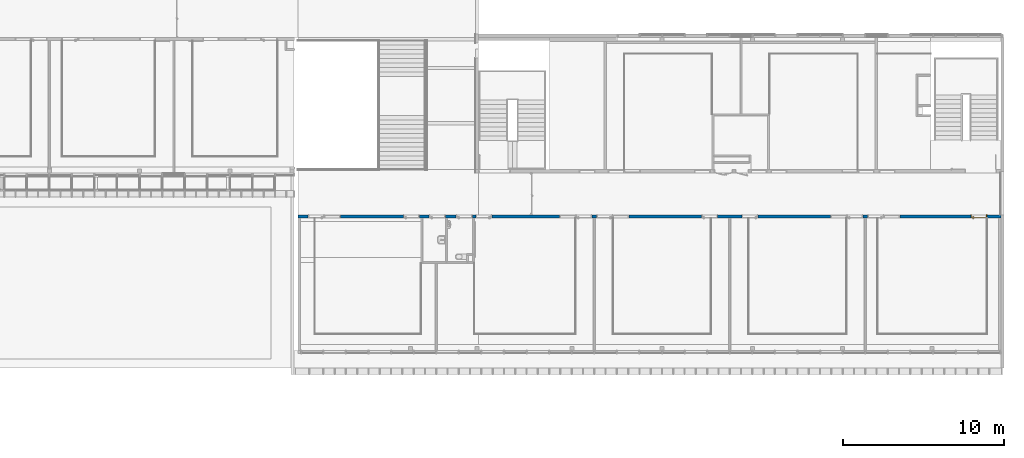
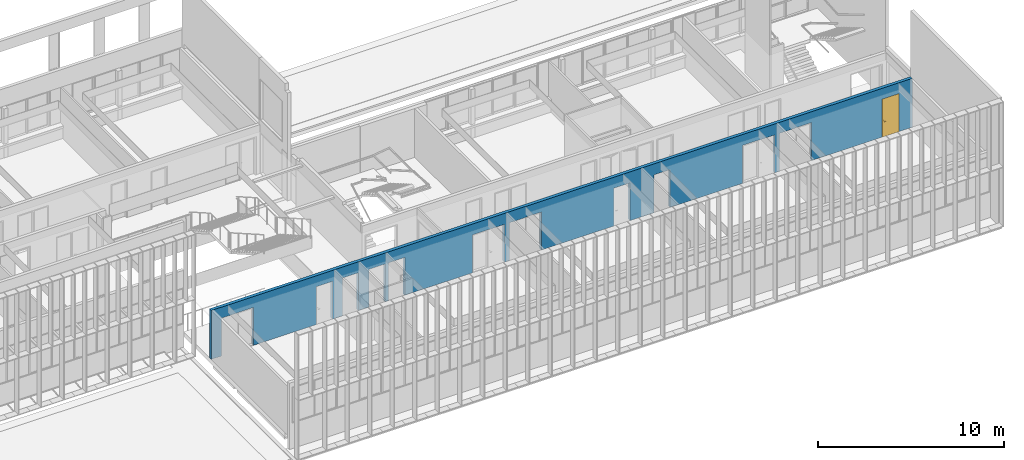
# One storey, part 66 of 106: 1 door, 1 wall, 18 openings.
"""IFC2X3 building model written with IfcOpenShell, lengths in centimetres."""

from ifc_helpers import new_model, entity, si_unit, converted_unit, derived_unit, direction, frame, frame_2d, origin, place, context, subcontext, project, spatial, polyline, rectangle, extrude, clip, bounded_halfspace, faceted_brep, source, transform, mapped, material, material_list, layer, layer_set, layer_usage, type_object, type_shapes, element, fill, save


model = new_model("IFC2X3")

# Units and contexts
model_context = context("Model", 3, precision=0.001, world=origin(), true_north=direction((6.12303176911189e-17, 1.0)))
body_context = subcontext(model_context, "Body", "Model", "MODEL_VIEW")
ifc_project = project(units=[si_unit("LENGTHUNIT", "METRE", prefix="CENTI"), si_unit("AREAUNIT", "SQUARE_METRE"), si_unit("VOLUMEUNIT", "CUBIC_METRE"), converted_unit("PLANEANGLEUNIT", "DEGREE", entity("IfcRatioMeasure", 0.0174532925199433), si_unit("PLANEANGLEUNIT", "RADIAN"), dimensions=[0, 0, 0, 0, 0, 0, 0]), si_unit("MASSUNIT", "GRAM", prefix="KILO"), derived_unit("MASSDENSITYUNIT", [(si_unit("MASSUNIT", "GRAM", prefix="KILO"), 1), (si_unit("LENGTHUNIT", "METRE"), -3)]), si_unit("TIMEUNIT", "SECOND"), si_unit("FREQUENCYUNIT", "HERTZ"), si_unit("THERMODYNAMICTEMPERATUREUNIT", "DEGREE_CELSIUS"), derived_unit("THERMALTRANSMITTANCEUNIT", [(si_unit("MASSUNIT", "GRAM", prefix="KILO"), 1), (si_unit("THERMODYNAMICTEMPERATUREUNIT", "KELVIN"), -1), (si_unit("TIMEUNIT", "SECOND"), -3)]), derived_unit("VOLUMETRICFLOWRATEUNIT", [(si_unit("LENGTHUNIT", "METRE"), 3), (si_unit("TIMEUNIT", "SECOND"), -1)]), si_unit("ELECTRICCURRENTUNIT", "AMPERE"), si_unit("ELECTRICVOLTAGEUNIT", "VOLT"), si_unit("POWERUNIT", "WATT"), si_unit("FORCEUNIT", "NEWTON", prefix="KILO"), si_unit("ILLUMINANCEUNIT", "LUX"), si_unit("LUMINOUSFLUXUNIT", "LUMEN"), si_unit("LUMINOUSINTENSITYUNIT", "CANDELA"), derived_unit("USERDEFINED", [(si_unit("MASSUNIT", "GRAM", prefix="KILO"), -1), (si_unit("LENGTHUNIT", "METRE"), -2), (si_unit("TIMEUNIT", "SECOND"), 3), (si_unit("LUMINOUSFLUXUNIT", "LUMEN"), 1)]), derived_unit("LINEARVELOCITYUNIT", [(si_unit("LENGTHUNIT", "METRE"), 1), (si_unit("TIMEUNIT", "SECOND"), -1)]), si_unit("PRESSUREUNIT", "PASCAL"), derived_unit("USERDEFINED", [(si_unit("LENGTHUNIT", "METRE"), -2), (si_unit("MASSUNIT", "GRAM", prefix="KILO"), 1), (si_unit("TIMEUNIT", "SECOND"), -2)])], contexts=[model_context])

# Site, building, storey
site_placement = place(None, frame((-2781.94577612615, 7442.24238424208, 0.0)))
site = spatial("IfcSite", under=ifc_project, at=site_placement, Name="Default", CompositionType="ELEMENT")
building_placement = place(site_placement, origin())
building = spatial("IfcBuilding", under=site, at=building_placement, CompositionType="ELEMENT")
storey_placement = place(building_placement, frame((0.0, 0.0, 422.0)))
storey = spatial("IfcBuildingStorey", under=building, at=storey_placement, Name="Toiture - Cuisine", CompositionType="ELEMENT", Elevation=421.999999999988)

# Wall, openings, door
ifc_material_1 = material(Name="01 - Maçonnerie")
ifc_layer = layer(ifc_material_1, 20.0)
ifc_layer_set = layer_set([ifc_layer], Name="Mur de base:04 - Structure - béton - 20cm")
ifc_layer_usage = layer_usage(ifc_layer_set, "AXIS2", "NEGATIVE", 10.0)
wall_type = type_object("IfcWallType", Name="Mur de base:04 - Structure - béton - 20cm", PredefinedType="STANDARD", material=ifc_layer_set)
wall_placement = place(building_placement, frame((-4767.99987760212, -2200.15656731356, 422.0)))
wall = element("IfcWallStandardCase", 1, at=wall_placement, inside=storey, type_object=wall_type, material=ifc_layer_usage, Name="Mur de base:04 - Structure - béton - 20cm", ObjectType="Mur de base:04 - Structure - béton - 20cm", context=body_context, shape_type="Clipping", body=[
    clip(extrude(rectangle(XDim=4357.99999476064, YDim=19.9999999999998, at=frame_2d((2178.99999738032, -6.30606677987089e-14), x_axis=(-1.0, 0.0))), origin(), (0.0, 0.0, 1.0), 321.0), bounded_halfspace(frame((0.0, 10.0, 321.0), z_axis=(0.0, 0.0, -1.0), x_axis=(0.0, 1.0, 0.0)), True, frame((0.0, 10.0, 321.0)), polyline([(0.0, 0.0), (0.0, -20.0), (15.2999999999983, -20.0), (103.799999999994, -20.0), (105.799999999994, -20.0), (763.799999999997, -20.0), (773.799999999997, -20.0), (915.699994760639, -20.0), (925.699994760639, -20.0), (1082.69999476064, -20.0), (1092.69999476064, -20.0), (1720.69999476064, -20.0), (1722.69999476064, -20.0), (1832.69999476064, -20.0), (1842.69999476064, -20.0), (1952.69999476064, -20.0), (1954.69999476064, -20.0), (2560.69999476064, -20.0), (2562.69999476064, -20.0), (2672.69999476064, -20.0), (2682.69999476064, -20.0), (2792.69999476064, -20.0), (2794.69999476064, -20.0), (3400.69999476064, -20.0), (3402.69999476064, -20.0), (3512.69999476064, -20.0), (3522.69999476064, -20.0), (3592.69999476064, -20.0), (3594.69999476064, -20.0), (4270.69999476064, -20.0), (4272.69999476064, -20.0), (4342.69999476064, -20.0), (4358.0, -20.0), (4358.0, 0.0), (4356.0, 0.0), (1451.49999791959, 0.0), (1441.49999791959, 0.0), (1120.0, 0.0), (0.0, 0.0)]))),
])
opening_1_placement = place(wall_placement, origin())
element("IfcOpeningElement", 2, at=opening_1_placement, cuts=wall, Name="Mur de base:04 - Structure - béton - 20cm", ObjectType="Opening", context=body_context, shape_type="SweptSolid", body=[
    extrude(rectangle(XDim=270.0, YDim=20.0, at=frame_2d((0.0, 4.2632564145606e-14), x_axis=(0.0, 1.0))), frame((4368.0, 10.0, 135.0), z_axis=(0.0, 1.0, 0.0), x_axis=(1.0, 0.0, 0.0)), (0.0, 0.0, 1.0), 260.077533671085),
])
opening_2_placement = place(wall_placement, frame((4272.69999476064, 10.0, 0.0)))
opening_2 = element("IfcOpeningElement", 3, at=opening_2_placement, cuts=wall, Name="Int. Simple:PV (0.93m x 2.50m):1", ObjectType="Opening", context=body_context, shape_type="SweptSolid", body=[
    extrude(rectangle(XDim=248.500000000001, YDim=99.9999999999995, at=frame_2d((124.250000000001, 50.0), x_axis=(1.0, 0.0))), frame((0.0, 0.0, 0.0), z_axis=(0.0, -1.0, 0.0), x_axis=(0.0, 0.0, 1.0)), (0.0, 0.0, 1.0), 20.0),
])
opening_3_placement = place(wall_placement, frame((3632.69999476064, 10.0, 0.0)))
element("IfcOpeningElement", 4, at=opening_3_placement, cuts=wall, Name="Int. Simple:PV (0.93m x 2.50m):1", ObjectType="Opening", context=body_context, shape_type="SweptSolid", body=[
    extrude(rectangle(XDim=248.500000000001, YDim=99.9999999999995, at=frame_2d((124.250000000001, 49.9999999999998), x_axis=(1.0, 0.0))), frame((0.0, 0.0, 0.0), z_axis=(0.0, -1.0, 0.0), x_axis=(0.0, 0.0, 1.0)), (0.0, 0.0, 1.0), 20.0),
])
opening_4_placement = place(wall_placement, frame((3502.69999476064, 10.0, 0.0)))
element("IfcOpeningElement", 5, at=opening_4_placement, cuts=wall, Name="Int. Simple:PV (0.93m x 2.50m):1", ObjectType="Opening", context=body_context, shape_type="SweptSolid", body=[
    extrude(rectangle(XDim=248.500000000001, YDim=99.9999999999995, at=frame_2d((124.250000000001, 49.9999999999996), x_axis=(1.0, 0.0))), frame((0.0, 0.0, 0.0), z_axis=(0.0, -1.0, 0.0), x_axis=(0.0, 0.0, 1.0)), (0.0, 0.0, 1.0), 20.0),
])
opening_5_placement = place(wall_placement, frame((2852.69999476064, 10.0, 0.0)))
element("IfcOpeningElement", 6, at=opening_5_placement, cuts=wall, Name="Int. Simple:PV (0.93m x 2.50m):1", ObjectType="Opening", context=body_context, shape_type="SweptSolid", body=[
    extrude(rectangle(XDim=248.500000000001, YDim=99.9999999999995, at=frame_2d((124.250000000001, 49.9999999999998), x_axis=(1.0, 0.0))), frame((0.0, 0.0, 0.0), z_axis=(0.0, -1.0, 0.0), x_axis=(0.0, 0.0, 1.0)), (0.0, 0.0, 1.0), 20.0),
])
opening_6_placement = place(wall_placement, frame((2602.69999476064, 10.0, 0.0)))
element("IfcOpeningElement", 7, at=opening_6_placement, cuts=wall, Name="Int. Simple:PV (0.93m x 2.50m):1", ObjectType="Opening", context=body_context, shape_type="SweptSolid", body=[
    extrude(rectangle(XDim=248.500000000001, YDim=99.9999999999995, at=frame_2d((124.250000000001, 49.9999999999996), x_axis=(1.0, 0.0))), frame((0.0, 0.0, 0.0), z_axis=(0.0, -1.0, 0.0), x_axis=(0.0, 0.0, 1.0)), (0.0, 0.0, 1.0), 20.0),
])
opening_7_placement = place(wall_placement, frame((1952.69999476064, 10.0, 0.0)))
element("IfcOpeningElement", 8, at=opening_7_placement, cuts=wall, Name="Int. Simple:PV (0.93m x 2.50m):1", ObjectType="Opening", context=body_context, shape_type="SweptSolid", body=[
    extrude(rectangle(XDim=248.500000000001, YDim=99.9999999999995, at=frame_2d((124.250000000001, 49.9999999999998), x_axis=(1.0, 0.0))), frame((0.0, 0.0, 0.0), z_axis=(0.0, -1.0, 0.0), x_axis=(0.0, 0.0, 1.0)), (0.0, 0.0, 1.0), 20.0),
])
opening_8_placement = place(wall_placement, frame((1822.69999476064, 10.0, 0.0)))
element("IfcOpeningElement", 9, at=opening_8_placement, cuts=wall, Name="Int. Simple:PV (0.93m x 2.50m):1", ObjectType="Opening", context=body_context, shape_type="SweptSolid", body=[
    extrude(rectangle(XDim=248.500000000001, YDim=99.9999999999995, at=frame_2d((124.250000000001, 49.9999999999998), x_axis=(1.0, 0.0))), frame((0.0, 0.0, 0.0), z_axis=(0.0, -1.0, 0.0), x_axis=(0.0, 0.0, 1.0)), (0.0, 0.0, 1.0), 20.0),
])
opening_9_placement = place(wall_placement, frame((1202.69999476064, 10.0, 0.0)))
element("IfcOpeningElement", 10, at=opening_9_placement, cuts=wall, Name="Int. Simple:PV (0.93m x 2.50m):1", ObjectType="Opening", context=body_context, shape_type="SweptSolid", body=[
    extrude(rectangle(XDim=248.500000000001, YDim=99.9999999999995, at=frame_2d((124.250000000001, 49.9999999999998), x_axis=(1.0, 0.0))), frame((0.0, 0.0, 0.0), z_axis=(0.0, -1.0, 0.0), x_axis=(0.0, 0.0, 1.0)), (0.0, 0.0, 1.0), 20.0),
])
opening_10_placement = place(wall_placement, frame((1081.19999476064, 10.0, 0.0)))
element("IfcOpeningElement", 11, at=opening_10_placement, cuts=wall, Name="Int. Simple:PP simple (0.93m x 2.50m):1", ObjectType="Opening", context=body_context, shape_type="SweptSolid", body=[
    extrude(rectangle(XDim=248.500000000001, YDim=99.9999999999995, at=frame_2d((124.250000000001, 49.9999999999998), x_axis=(1.0, 0.0))), frame((0.0, 0.0, 0.0), z_axis=(0.0, -1.0, 0.0), x_axis=(0.0, 0.0, 1.0)), (0.0, 0.0, 1.0), 20.0),
])
opening_11_placement = place(wall_placement, frame((753.799999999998, 10.0, 0.0)))
element("IfcOpeningElement", 12, at=opening_11_placement, cuts=wall, Name="Int. Simple:PV (0.93m x 2.50m):1", ObjectType="Opening", context=body_context, shape_type="SweptSolid", body=[
    extrude(rectangle(XDim=248.500000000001, YDim=99.9999999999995, at=frame_2d((124.250000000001, 50.0), x_axis=(1.0, 0.0))), frame((0.0, 0.0, 0.0), z_axis=(0.0, -1.0, 0.0), x_axis=(0.0, 0.0, 1.0)), (0.0, 0.0, 1.0), 20.0),
])
opening_12_placement = place(wall_placement, frame((163.799999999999, 10.0, 0.0)))
element("IfcOpeningElement", 13, at=opening_12_placement, cuts=wall, Name="Int. Simple:PV (0.93m x 2.50m):1", ObjectType="Opening", context=body_context, shape_type="SweptSolid", body=[
    extrude(rectangle(XDim=248.500000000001, YDim=99.9999999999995, at=frame_2d((124.250000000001, 49.9999999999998), x_axis=(1.0, 0.0))), frame((0.0, 0.0, 0.0), z_axis=(0.0, -1.0, 0.0), x_axis=(0.0, 0.0, 1.0)), (0.0, 0.0, 1.0), 20.0),
])
opening_13_placement = place(wall_placement, frame((263.799999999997, 10.0, 0.0)))
element("IfcOpeningElement", 14, at=opening_13_placement, cuts=wall, Name="châssis intérieur vitré:châssis intérieur vitré (h=270) R+1:1", ObjectType="Opening", context=body_context, shape_type="SweptSolid", body=[
    extrude(rectangle(XDim=250.0, YDim=99.9999999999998, at=frame_2d((125.0, 49.9999999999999), x_axis=(1.0, 0.0))), frame((0.0, 0.0, 0.0), z_axis=(0.0, -1.0, 0.0), x_axis=(0.0, 0.0, 1.0)), (0.0, 0.0, 1.0), 20.0),
])
opening_14_placement = place(wall_placement, frame((1722.69999476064, 10.0, 0.0)))
element("IfcOpeningElement", 15, at=opening_14_placement, cuts=wall, Name="châssis intérieur vitré:châssis intérieur vitré (h=270) R+1:1", ObjectType="Opening", context=body_context, shape_type="SweptSolid", body=[
    extrude(rectangle(XDim=250.0, YDim=99.9999999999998, at=frame_2d((125.0, 49.9999999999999), x_axis=(1.0, 0.0))), frame((0.0, 0.0, 0.0), z_axis=(0.0, -1.0, 0.0), x_axis=(0.0, 0.0, 1.0)), (0.0, 0.0, 1.0), 20.0),
])
opening_15_placement = place(wall_placement, frame((2052.69999476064, 10.0, 0.0)))
element("IfcOpeningElement", 16, at=opening_15_placement, cuts=wall, Name="châssis intérieur vitré:châssis intérieur vitré (h=270) R+1:1", ObjectType="Opening", context=body_context, shape_type="SweptSolid", body=[
    extrude(rectangle(XDim=250.0, YDim=99.9999999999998, at=frame_2d((125.0, 49.9999999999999), x_axis=(1.0, 0.0))), frame((0.0, 0.0, 0.0), z_axis=(0.0, -1.0, 0.0), x_axis=(0.0, 0.0, 1.0)), (0.0, 0.0, 1.0), 20.0),
])
opening_16_placement = place(wall_placement, frame((3402.69999476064, 10.0, 0.0)))
element("IfcOpeningElement", 17, at=opening_16_placement, cuts=wall, Name="châssis intérieur vitré:châssis intérieur vitré (h=270) R+1:1", ObjectType="Opening", context=body_context, shape_type="SweptSolid", body=[
    extrude(rectangle(XDim=250.0, YDim=99.9999999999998, at=frame_2d((125.0, 49.9999999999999), x_axis=(1.0, 0.0))), frame((0.0, 0.0, 0.0), z_axis=(0.0, -1.0, 0.0), x_axis=(0.0, 0.0, 1.0)), (0.0, 0.0, 1.0), 20.0),
])
opening_17_placement = place(wall_placement, frame((3732.69999476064, 10.0, 0.0)))
element("IfcOpeningElement", 18, at=opening_17_placement, cuts=wall, Name="châssis intérieur vitré:châssis intérieur vitré (h=270) R+1:1", ObjectType="Opening", context=body_context, shape_type="SweptSolid", body=[
    extrude(rectangle(XDim=250.0, YDim=99.9999999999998, at=frame_2d((125.0, 49.9999999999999), x_axis=(1.0, 0.0))), frame((0.0, 0.0, 0.0), z_axis=(0.0, -1.0, 0.0), x_axis=(0.0, 0.0, 1.0)), (0.0, 0.0, 1.0), 20.0),
])
opening_18_placement = place(wall_placement, frame((914.199994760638, 10.0, 0.0)))
element("IfcOpeningElement", 19, at=opening_18_placement, cuts=wall, Name="Int. Simple:PP simple (0.93m x 2.50m):1", ObjectType="Opening", context=body_context, shape_type="SweptSolid", body=[
    extrude(rectangle(XDim=248.500000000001, YDim=99.9999999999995, at=frame_2d((124.250000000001, 50.0), x_axis=(1.0, 0.0))), frame((0.0, 0.0, 0.0), z_axis=(0.0, -1.0, 0.0), x_axis=(0.0, 0.0, 1.0)), (0.0, 0.0, 1.0), 20.0),
])
ifc_material_2 = material(Name="Finition Peinture - Blanc satiné")
ifc_material_3 = material(Name="Bois - Panneau de porte")
ifc_material_4 = material(Name="Bois - Cadre de porte")
ifc_material_list_1 = material_list([ifc_material_2, ifc_material_3, ifc_material_4])
ifc_material_list_2 = material_list([ifc_material_2, ifc_material_3, ifc_material_4])
door_style = type_object("IfcDoorStyle", Name="PV (0.93m x 2.50m)", ConstructionType="NOTDEFINED", OperationType="SINGLE_SWING_LEFT", ParameterTakesPrecedence=False, Sizeable=False, material=ifc_material_list_2)
shared_shape = source(origin(), body_context, "Body", "Brep", [
    faceted_brep([(10.5352761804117, -0.500000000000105, 86.6003983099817), (11.5000000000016, -0.500000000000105, 87.0), (11.5000000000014, -0.500000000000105, 108.0), (10.5352761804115, -0.500000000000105, 108.399601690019), (9.50000000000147, -0.500000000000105, 108.535898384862), (8.46472381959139, -0.500000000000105, 108.399601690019), (7.50000000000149, -0.500000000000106, 108.0), (7.50000000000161, -0.500000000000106, 87.0), (8.46472381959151, -0.500000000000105, 86.6003983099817), (9.50000000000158, -0.500000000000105, 86.464101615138), (10.5352761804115, 0.0, 108.399601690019), (11.5000000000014, 0.0, 108.0), (11.5000000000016, 0.0, 87.0), (10.5352761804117, 0.0, 86.6003983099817), (9.50000000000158, 0.0, 86.464101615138), (8.46472381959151, 0.0, 86.6003983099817), (7.50000000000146, 0.0, 87.0), (7.50000000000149, 0.0, 108.0), (8.46472381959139, 0.0, 108.399601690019), (9.50000000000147, 0.0, 108.535898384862)], [[[0, 1, 2, 3, 4, 5, 6, 7, 8, 9]], [[10, 11, 12, 13, 14, 15, 16, 17, 18, 19]], [[16, 15, 8, 7]], [[8, 15, 14, 9]], [[14, 13, 0, 9]], [[13, 12, 1, 0]], [[2, 1, 12, 11]], [[11, 10, 3, 2]], [[3, 10, 19, 4]], [[19, 18, 5, 4]], [[18, 17, 6, 5]], [[7, 6, 17, 16]]]),
    faceted_brep([(10.5352761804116, 4.0, 86.6003983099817), (11.5000000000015, 4.0, 87.0), (11.5000000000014, 4.0, 108.0), (10.5352761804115, 4.0, 108.399601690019), (9.50000000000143, 4.0, 108.535898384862), (8.46472381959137, 4.0, 108.399601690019), (7.50000000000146, 4.0, 108.0), (7.50000000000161, 4.0, 87.0), (8.46472381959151, 4.0, 86.6003983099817), (9.50000000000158, 4.0, 86.464101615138), (10.5352761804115, 4.49999999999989, 108.399601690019), (11.5000000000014, 4.49999999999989, 108.0), (11.5000000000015, 4.49999999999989, 87.0), (10.5352761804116, 4.49999999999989, 86.6003983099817), (9.50000000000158, 4.49999999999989, 86.464101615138), (8.46472381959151, 4.49999999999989, 86.6003983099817), (7.50000000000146, 4.49999999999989, 87.0), (7.50000000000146, 4.49999999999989, 108.0), (8.46472381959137, 4.49999999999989, 108.399601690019), (9.50000000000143, 4.49999999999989, 108.535898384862)], [[[0, 1, 2, 3, 4, 5, 6, 7, 8, 9]], [[10, 11, 12, 13, 14, 15, 16, 17, 18, 19]], [[11, 10, 3, 2]], [[3, 10, 19, 4]], [[19, 18, 5, 4]], [[18, 17, 6, 5]], [[7, 6, 17, 16]], [[16, 15, 8, 7]], [[8, 15, 14, 9]], [[14, 13, 0, 9]], [[13, 12, 1, 0]], [[2, 1, 12, 11]]]),
    faceted_brep([(9.29747013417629, -0.500000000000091, 100.778044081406), (9.70252986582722, -0.500000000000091, 100.778044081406), (10.1000000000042, -0.500000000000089, 100.699999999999), (10.1000000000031, -0.500000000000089, 99.3000000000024), (9.7025298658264, -0.500000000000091, 99.2219559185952), (9.29747013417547, -0.500000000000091, 99.221955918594), (8.8999999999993, -0.500000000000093, 99.2999999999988), (8.89999999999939, -0.500000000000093, 100.7), (8.89999999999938, -3.26509507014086, 100.7), (9.29747013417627, -3.10045754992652, 100.778044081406), (10.9023585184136, -4.70534593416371, 100.778044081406), (11.0701397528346, -4.30028620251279, 100.778044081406), (9.7025298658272, -2.93267631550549, 100.778044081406), (10.1000000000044, -2.76803879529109, 100.7), (10.1000000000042, -2.76803879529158, 99.3000000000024), (9.7025298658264, -2.93267631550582, 99.2219559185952), (11.0701397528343, -4.30028620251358, 99.2219559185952), (10.9023585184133, -4.70534593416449, 99.221955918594), (9.29747013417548, -3.10045754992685, 99.221955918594), (8.89999999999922, -3.26509507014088, 99.2999999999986), (10.7377209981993, -5.10281606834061, 100.7), (11.2347772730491, -3.90281606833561, 100.7), (11.2347772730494, -3.90281606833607, 99.3000000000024), (10.7377209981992, -5.10281606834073, 99.2999999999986), (19.5018640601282, -5.1028160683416, 99.2999999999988), (19.5018640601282, -4.70534593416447, 99.221955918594), (19.5018640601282, -4.30028620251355, 99.2219559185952), (19.5018640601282, -3.90281606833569, 99.3000000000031), (19.5018640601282, -3.90281606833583, 100.7), (19.5018640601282, -4.30028620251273, 100.778044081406), (19.5018640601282, -4.70534593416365, 100.778044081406), (19.5018640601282, -5.10281606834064, 100.699999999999), (14.7307697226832, -5.10281606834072, 100.7), (15.2860019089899, -4.5028160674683, 100.78786867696), (15.3683206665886, -3.9028160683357, 100.7), (15.3683206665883, -3.90281606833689, 99.3000000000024), (15.2860018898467, -4.50281607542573, 99.2121313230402), (14.7307700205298, -5.10281606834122, 99.2999999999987)], [[[0, 1, 2, 3, 4, 5, 6, 7]], [[8, 9, 0, 7]], [[9, 10, 11, 12, 1, 0]], [[12, 13, 2, 1]], [[3, 2, 13, 14]], [[14, 15, 4, 3]], [[15, 16, 17, 18, 5, 4]], [[18, 19, 6, 5]], [[7, 6, 19, 8]], [[20, 10, 9, 8]], [[11, 21, 13, 12]], [[14, 13, 21, 22]], [[22, 16, 15, 14]], [[17, 23, 19, 18]], [[8, 19, 23, 20]], [[24, 25, 26, 27, 28, 29, 30, 31]], [[32, 30, 33]], [[31, 30, 32]], [[10, 20, 32]], [[33, 34, 11]], [[21, 11, 34]], [[34, 29, 28]], [[30, 29, 33]], [[29, 34, 33]], [[10, 32, 33]], [[10, 33, 11]], [[22, 21, 34, 28, 27, 35]], [[35, 26, 36]], [[37, 36, 25]], [[22, 35, 16]], [[35, 27, 26]], [[24, 37, 25]], [[23, 17, 37]], [[37, 17, 36]], [[17, 16, 36]], [[16, 35, 36]], [[25, 36, 26]], [[20, 23, 37, 24, 31, 32]]]),
    faceted_brep([(9.29747013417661, 4.49999999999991, 100.778044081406), (8.89999999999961, 4.4999999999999, 100.7), (8.89999999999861, 4.4999999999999, 99.2999999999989), (9.29747013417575, 4.49999999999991, 99.221955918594), (9.70252986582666, 4.49999999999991, 99.2219559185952), (10.1000000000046, 4.49999999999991, 99.3000000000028), (10.1000000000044, 4.49999999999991, 100.7), (9.70252986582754, 4.49999999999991, 100.778044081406), (10.1000000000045, 6.7485204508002, 99.3000000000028), (10.1000000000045, 6.74852045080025, 100.7), (9.70252986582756, 6.91315797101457, 100.778044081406), (11.083890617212, 8.29451872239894, 100.778044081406), (10.916109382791, 8.69957845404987, 100.778044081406), (9.29747013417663, 7.0809392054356, 100.778044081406), (8.89999999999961, 7.24557672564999, 100.7), (8.89999999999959, 7.2455767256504, 99.2999999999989), (9.29747013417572, 7.08093920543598, 99.221955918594), (10.9161093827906, 8.69957845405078, 99.221955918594), (11.0838906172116, 8.29451872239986, 99.2219559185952), (9.70252986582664, 6.91315797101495, 99.2219559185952), (11.2485281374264, 7.89704858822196, 99.3000000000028), (11.2485281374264, 7.89704858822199, 100.7), (10.7514718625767, 9.09704858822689, 100.7), (10.7514718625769, 9.0970485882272, 99.2999999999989), (19.5045783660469, 7.89704858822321, 99.3000000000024), (19.5045783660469, 8.29451872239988, 99.2219559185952), (19.5045783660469, 8.6995784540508, 99.221955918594), (19.5045783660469, 9.09704858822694, 99.2999999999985), (19.5045783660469, 9.09704858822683, 100.7), (19.5045783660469, 8.69957845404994, 100.778044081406), (19.5045783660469, 8.29451872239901, 100.778044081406), (19.5045783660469, 7.89704858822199, 100.7), (15.3765520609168, 7.89704858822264, 99.3000000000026), (15.3765532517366, 7.89704858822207, 100.7), (15.294234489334, 8.49704858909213, 100.78786867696), (14.7445205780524, 9.09704858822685, 100.7), (14.7445204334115, 9.09704858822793, 99.2999999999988), (15.2942345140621, 8.49704858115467, 99.2121313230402)], [[[0, 1, 2, 3, 4, 5, 6, 7]], [[6, 5, 8, 9]], [[9, 10, 7, 6]], [[10, 11, 12, 13, 0, 7]], [[13, 14, 1, 0]], [[2, 1, 14, 15]], [[15, 16, 3, 2]], [[16, 17, 18, 19, 4, 3]], [[19, 8, 5, 4]], [[9, 8, 20, 21]], [[21, 11, 10, 9]], [[12, 22, 14, 13]], [[15, 14, 22, 23]], [[23, 17, 16, 15]], [[18, 20, 8, 19]], [[24, 25, 26, 27, 28, 29, 30, 31]], [[21, 20, 32, 24, 31, 33]], [[33, 30, 34]], [[35, 34, 29]], [[21, 33, 11]], [[33, 31, 30]], [[28, 35, 29]], [[22, 12, 35]], [[35, 12, 34]], [[12, 11, 34]], [[11, 33, 34]], [[29, 34, 30]], [[22, 35, 28, 27, 36, 23]], [[36, 26, 37]], [[27, 26, 36]], [[17, 23, 36]], [[37, 32, 18]], [[20, 18, 32]], [[32, 25, 24]], [[26, 25, 37]], [[25, 32, 37]], [[17, 36, 37]], [[17, 37, 18]]]),
    faceted_brep([(3.50000000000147, 4.0, 245.0), (96.5000000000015, 4.0, 245.0), (96.5000000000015, 4.0, 0.0), (3.50000000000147, 4.0, 0.0), (3.50000000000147, 0.0, 245.0), (3.50000000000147, 0.0, 0.0), (96.5000000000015, 0.0, 0.0), (96.5000000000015, 0.0, 245.0)], [[[0, 1, 2, 3]], [[4, 5, 6, 7]], [[1, 0, 4, 7]], [[2, 1, 7, 6]], [[3, 2, 6, 5]], [[0, 3, 5, 4]]]),
    faceted_brep([(0.0, 20.0, 0.0), (-1.50000000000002, 20.0, 0.0), (-1.50000000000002, 20.5000000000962, 0.0), (5.0, 20.5000000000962, 0.0), (5.0, 4.0, 0.0), (3.50000000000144, 4.0, 0.0), (3.50000000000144, -0.500000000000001, 0.0), (-1.50000000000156, -0.500000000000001, 0.0), (-1.50000000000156, 0.0, 0.0), (0.0, 0.0, 0.0), (0.0, 20.0, 248.500000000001), (100.0, 20.0, 248.500000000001), (100.0, 20.0, 0.0), (101.5, 20.0, 0.0), (101.5, 20.0, 250.0), (-1.50000000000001, 20.0, 250.0), (-1.50000000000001, 20.5000000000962, 250.0), (101.5, 20.5000000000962, 250.0), (101.5, 20.5000000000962, 0.0), (95.0, 20.5000000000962, 0.0), (95.0, 20.5000000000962, 243.5), (5.0, 20.5000000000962, 243.5), (5.0, 4.0, 243.5), (95.0, 4.0, 243.5), (95.0, 4.0, 0.0), (96.499999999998, 4.0, 0.0), (96.499999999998, 4.0, 245.0), (3.50000000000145, 4.0, 245.0), (3.50000000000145, -0.500000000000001, 245.0), (96.499999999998, -0.500000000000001, 245.0), (96.499999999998, -0.500000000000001, 0.0), (101.500000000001, -0.500000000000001, 0.0), (101.500000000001, -0.500000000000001, 250.0), (-1.50000000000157, -0.500000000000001, 250.0), (-1.50000000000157, 0.0, 250.0), (101.500000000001, 0.0, 250.0), (101.500000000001, 0.0, 0.0), (100.0, 0.0, 0.0), (100.0, 0.0, 248.500000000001), (0.0, 0.0, 248.500000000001)], [[[0, 1, 2, 3, 4, 5, 6, 7, 8, 9]], [[1, 0, 10, 11, 12, 13, 14, 15]], [[2, 1, 15, 16]], [[3, 2, 16, 17, 18, 19, 20, 21]], [[3, 21, 22, 4]], [[5, 4, 22, 23, 24, 25, 26, 27]], [[5, 27, 28, 6]], [[7, 6, 28, 29, 30, 31, 32, 33]], [[8, 7, 33, 34]], [[9, 8, 34, 35, 36, 37, 38, 39]], [[0, 9, 39, 10]], [[11, 38, 37, 12]], [[12, 37, 36, 31, 30, 25, 24, 19, 18, 13]], [[17, 14, 13, 18]], [[23, 20, 19, 24]], [[29, 26, 25, 30]], [[35, 32, 31, 36]], [[16, 15, 14, 17]], [[22, 21, 20, 23]], [[28, 27, 26, 29]], [[34, 33, 32, 35]], [[10, 39, 38, 11]]]),
])
type_shapes(door_style, [shared_shape])
door_placement = place(opening_2_placement, frame((-100.0, -20.0, 0.0)))
door = element("IfcDoor", 20, at=door_placement, inside=storey, type_object=door_style, material=ifc_material_list_1, Name="Int. Simple:PV (0.93m x 2.50m)", ObjectType="Int. Simple:PV (0.93m x 2.50m)", OverallHeight=248.500000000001, OverallWidth=99.9999999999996, context=body_context, shape_type="MappedRepresentation", body=[
    mapped(shared_shape, transform((0.0, 0.0, 0.0), scale=1.0)),
])
fill(opening_2, door)

save(model, "model.ifc")
